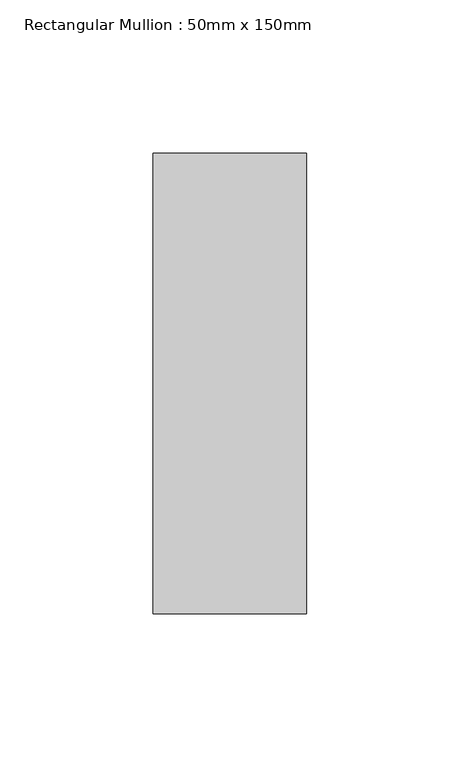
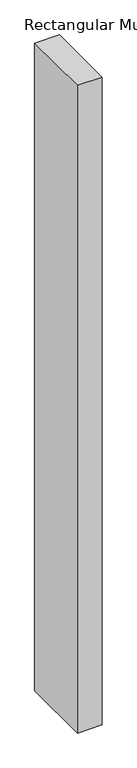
"""IFC4 building model written with IfcOpenShell, lengths in millimetres: member geometry, Rectangular Mullion : 50mm x 150mm."""

from ifc_helpers import new_model, si_unit, frame, origin, place, context, project, spatial, polyline, outline, extrude, source, transform, mapped, element, save


def rectangular_mullion_50mm_x_150mm_d8cd8736(model_context):
    return source(origin(), model_context, "Body", "SweptSolid", [
        extrude(outline(polyline([(25.0, 75.0), (25.0, -75.0), (-25.0, -75.0), (-25.0, 75.0), (25.0, 75.0)])), frame((0.0, 0.0, -1388.8800774), z_axis=(0.0, 0.0, 1.0), x_axis=(1.0, 0.0, 0.0)), (0.0, 0.0, 1.0), 1388.8800774),
    ])


if __name__ == "__main__":
    model = new_model("IFC4")
    model_context = context("Model", 3, world=origin())
    ifc_project = project(units=[si_unit("LENGTHUNIT", "METRE", prefix="MILLI")], contexts=[model_context])
    site = spatial("IfcSite", under=ifc_project)
    building = spatial("IfcBuilding", under=site)
    placement = place(None, origin())
    rectangular_mullion_50mm_x_150mm_shape = rectangular_mullion_50mm_x_150mm_d8cd8736(model_context)
    element("IfcMember", 1, ObjectType="Rectangular Mullion : 50mm x 150mm", at=placement, inside=building, context=model_context, shape_type="MappedRepresentation", body=[
        mapped(rectangular_mullion_50mm_x_150mm_shape, transform((0.0, 0.0, 0.0), x_axis=(1.0, 0.0, 0.0), y_axis=(0.0, 1.0, 0.0), z_axis=(0.0, 0.0, 1.0))),
    ])
    save(model, "model.ifc")
